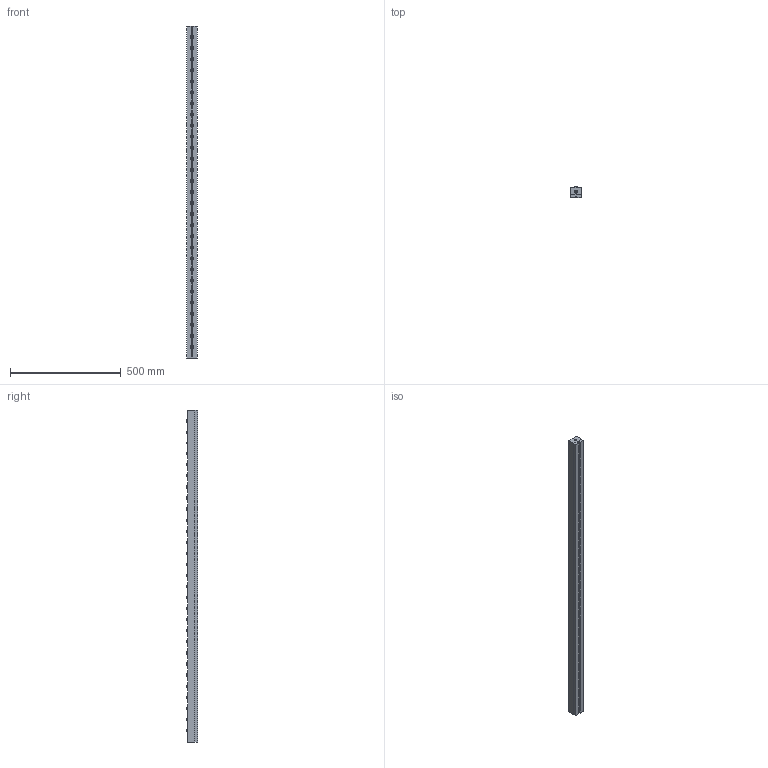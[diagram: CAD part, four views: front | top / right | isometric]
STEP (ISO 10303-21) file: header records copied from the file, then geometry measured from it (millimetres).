
FILE_DESCRIPTION (( 'STEP AP203' ), '1' );
FILE_NAME ('PVL55SH-29.STEP', '2016-02-18T09:00:26', ( '' ), ( '' ), 'SwSTEP 2.0', 'SolidWorks 2013', '' );
FILE_SCHEMA (( 'CONFIG_CONTROL_DESIGN' ));
Length unit declared in the file: millimetre
Products named in the file (1): PVL55SH-29
Bounding box: 49 x 50 x 1500 mm (x, y, z)
Volume: 3183899.6 mm3; surface area: 510256.6 mm2
Topology: 2 solids, 2 shells, 1232 faces, 2652 edges, 1776 vertices
Faces by surface type: cylinder 714, plane 456, sphere 58, cone 4
Entity records: 34433 total; most frequent: DIRECTION 6780, CARTESIAN_POINT 5659, ORIENTED_EDGE 5300, AXIS2_PLACEMENT_3D 2897, EDGE_CURVE 2650, VERTEX_POINT 1776, CIRCLE 1664, EDGE_LOOP 1594
